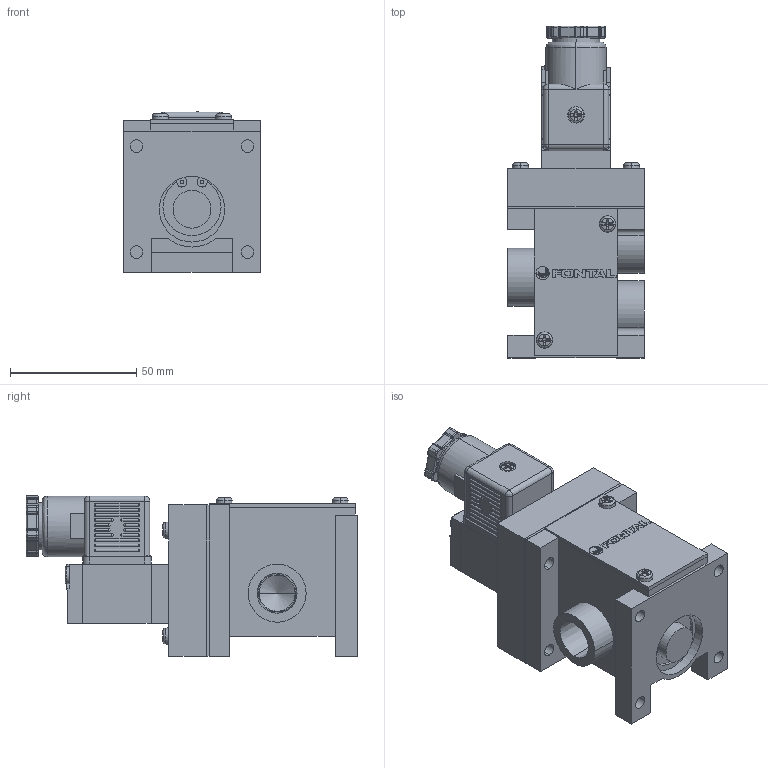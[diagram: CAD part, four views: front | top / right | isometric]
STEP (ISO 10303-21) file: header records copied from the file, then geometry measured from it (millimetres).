
FILE_DESCRIPTION (( 'STEP AP203' ), '1' );
FILE_NAME ('PMS2308#-03-#C#.STEP', '2016-03-09T08:15:30', ( 'Sam Lin' ), ( '' ), 'SwSTEP 2.0', 'SolidWorks 2013', '' );
FILE_SCHEMA (( 'CONFIG_CONTROL_DESIGN' ));
Length unit declared in the file: metre
Products named in the file (15): PMS2308-6; PM06-C3-M4_1; PMS2308#-03-#C#; PM06-C1_1; PM06-C4_1; PM06-C6-M3_1; PMS2308-1; PM06-C5_1; PMS2308-2; PMS2306-6(C); PM08-MARK; PMS2306-5; PMS2308-3; PMS2308-5; PMS2308-4
Assembly tree (21 placements, depth 2):
  PMS2308#-03-#C#
    PMS2308-1
    PMS2308-2
    PM08-MARK
    PMS2308-3
    PMS2308-4
    PM06-C3-M4_1  x7
    PM06-C1_1
    PM06-C4_1
    PM06-C6-M3_1  x2
    PM06-C5_1
    PMS2306-6(C)
    PMS2306-5
    PMS2308-5
    PMS2308-6
Bounding box: 54 x 131.5 x 63.64 mm (x, y, z)
Volume: 226014.4 mm3; surface area: 66354.2 mm2
Topology: 27 solids, 27 shells, 905 faces, 2302 edges, 1354 vertices
Faces by surface type: plane 369, cylinder 243, bspline 206, cone 87
Entity records: 27741 total; most frequent: CARTESIAN_POINT 11226, ORIENTED_EDGE 3152, DIRECTION 2912, EDGE_CURVE 1576, AXIS2_PLACEMENT_3D 1071, VERTEX_POINT 997, LINE 770, VECTOR 770
